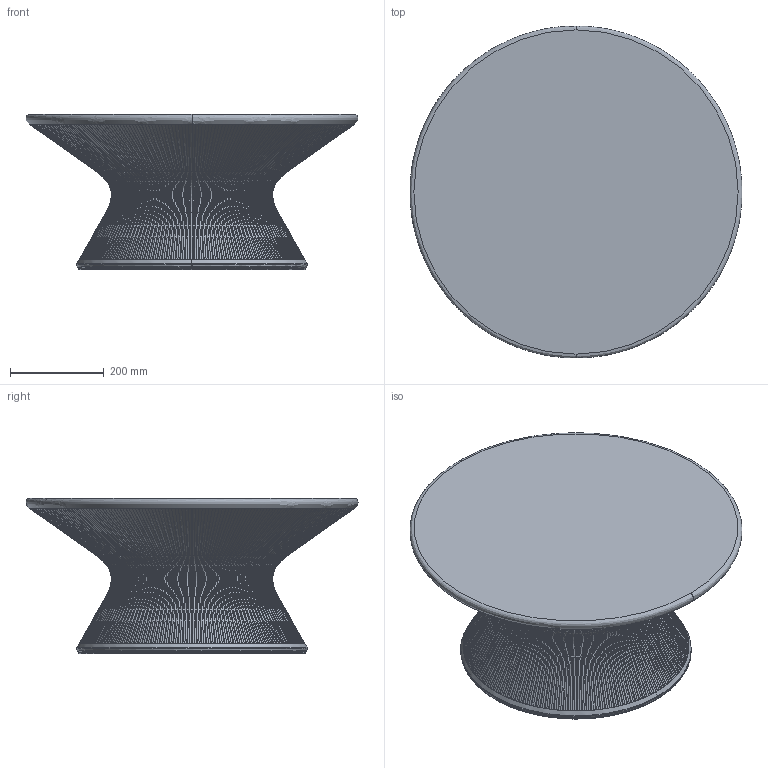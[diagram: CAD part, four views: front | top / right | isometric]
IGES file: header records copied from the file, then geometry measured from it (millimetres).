
Start section: START RECORD GO HERE.
Global section: file name: FADE-Coffee-Table.igs; native system: DASSAULT SYSTEMES CATIA Version 5-6 Release 2020 - www.3ds.com; preprocessor: V5-6R2020_5.30.3.0.09-09-2020.20.00; author: samatori; organization: DOMAIN; date: 20201014.145412; units: millimetre
Bounding box: 706.54 x 706.54 x 330 mm (x, y, z)
Surface area: 1265332.5 mm2 (no closed solid volume)
Topology: 0 solids, 0 shells, 1919 faces, 10062 edges, 9756 vertices
Faces by surface type: bspline 1842, revolution 62, plane 15
